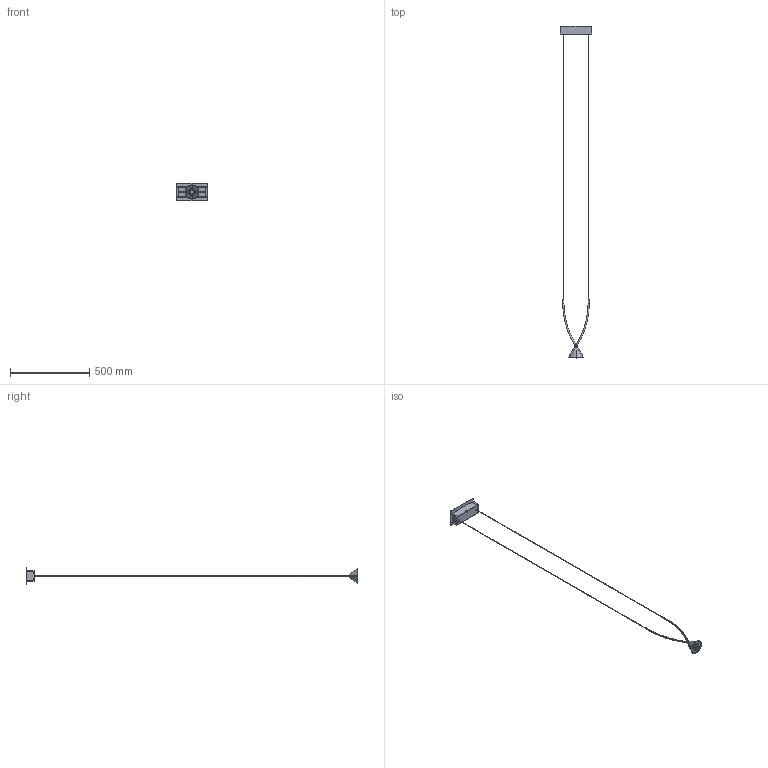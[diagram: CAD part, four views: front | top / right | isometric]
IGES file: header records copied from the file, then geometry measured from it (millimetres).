
Start section: SolidWorks IGES file using analytic representation for surfaces
Global section: file name: \\STORAGE\Tecnico Condiviso\1 FASCICOLI TECNICI\AXO DESIGN\AXO053-JEWEL\ETL\USJEWEL1XXXXLED\SPJEWEL1XXXXLED-PER 3D\USJEWEL1XXXXLED-PER 3D.IGS; native system: SolidWorks 2018; preprocessor: SolidWorks 2018; author: tecnico3; date: 180911.110445; units: millimetre
Bounding box: 200 x 2097.46 x 110 mm (x, y, z)
Surface area: 215350.3 mm2 (no closed solid volume)
Topology: 0 solids, 0 shells, 3023 faces, 26791 edges, 26702 vertices
Faces by surface type: bspline 1680, revolution 1343
